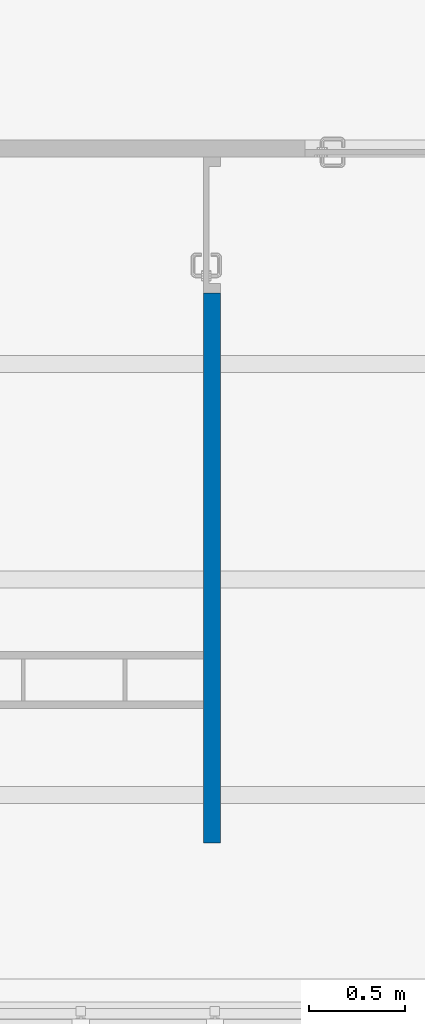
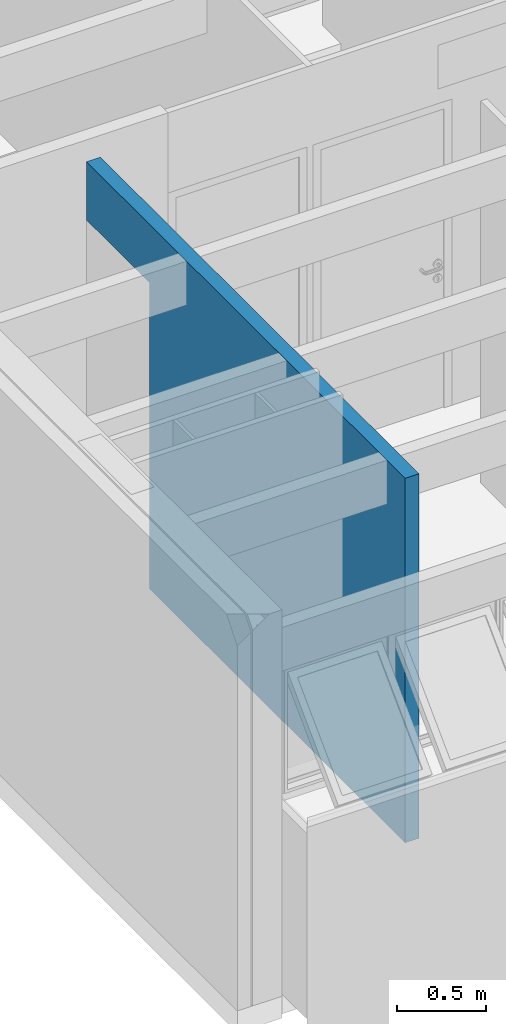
# One storey, part 18 of 38: 1 wall, 1 opening.
"""IFC2X3 building model written with IfcOpenShell, lengths in millimetres."""

from ifc_helpers import new_model, entity, si_unit, converted_unit, derived_unit, money_unit, direction, frame, origin_with_axes, origin_2d_with_axis, place, context, subcontext, project, spatial, polyline, rectangle, outline, extrude, material, layer, layer_set, layer_usage, type_object, element, save


model = new_model("IFC2X3")

# Units and contexts
model_context = context("Model", 3, precision=0.01, world=origin_with_axes(), true_north=direction((0.0, 1.0)))
body_context = subcontext(model_context, "Body", "Model", "MODEL_VIEW")
ifc_project = project(units=[si_unit("LENGTHUNIT", "METRE", prefix="MILLI"), si_unit("AREAUNIT", "SQUARE_METRE"), si_unit("VOLUMEUNIT", "CUBIC_METRE"), converted_unit("PLANEANGLEUNIT", "DEGREE", entity("IfcPlaneAngleMeasure", 0.0174532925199), si_unit("PLANEANGLEUNIT", "RADIAN"), dimensions=[0, 0, 0, 0, 0, 0, 0]), money_unit("USD"), converted_unit("TIMEUNIT", "Year", entity("IfcTimeMeasure", 31556926.0), si_unit("TIMEUNIT", "SECOND"), dimensions=[0, 0, 1, 0, 0, 0, 0]), si_unit("MASSUNIT", "GRAM", prefix="KILO"), si_unit("THERMODYNAMICTEMPERATUREUNIT", "DEGREE_CELSIUS"), si_unit("LUMINOUSINTENSITYUNIT", "LUMEN"), si_unit("ENERGYUNIT", "JOULE", prefix="MEGA"), derived_unit("THERMALCONDUCTANCEUNIT", [(si_unit("POWERUNIT", "WATT"), 1), (si_unit("LENGTHUNIT", "METRE"), -1), (si_unit("THERMODYNAMICTEMPERATUREUNIT", "KELVIN"), -1)]), derived_unit("SPECIFICHEATCAPACITYUNIT", [(si_unit("ENERGYUNIT", "JOULE"), 1), (si_unit("MASSUNIT", "GRAM", prefix="KILO"), -1), (si_unit("THERMODYNAMICTEMPERATUREUNIT", "KELVIN"), -1)]), derived_unit("MASSDENSITYUNIT", [(si_unit("MASSUNIT", "GRAM", prefix="KILO"), 1), (si_unit("VOLUMEUNIT", "CUBIC_METRE"), -1)])], contexts=[model_context])

# Site, building, storey
site_placement = place(None, origin_with_axes())
site = spatial("IfcSite", under=ifc_project, at=site_placement, Name="Local", CompositionType="ELEMENT")
building_placement = place(site_placement, origin_with_axes())
building = spatial("IfcBuilding", under=site, at=building_placement, Name="Construção", CompositionType="ELEMENT")
storey_placement = place(building_placement, frame((0.0, 0.0, 2650.0), z_axis=(0.0, 0.0, 1.0), x_axis=(1.0, 0.0, 0.0)))
storey = spatial("IfcBuildingStorey", under=building, at=storey_placement, Name="Segundo Pavimento", CompositionType="ELEMENT", Elevation=2650.0)

# Wall, opening
ifc_material = material(Name="GENÉRICO - VEDAÇÃO EXTERNA")
ifc_layer = layer(ifc_material, 90.0, ventilated="UNKNOWN")
ifc_layer_set = layer_set([ifc_layer], Name="GENÉRICO - VEDAÇÃO EXTERNA 90")
ifc_layer_usage = layer_usage(ifc_layer_set, "AXIS2", "POSITIVE", 0.0)
wall_type = type_object("IfcWallType", Name="GENÉRICO - VEDAÇÃO EXTERNA 90", PredefinedType="NOTDEFINED")
wall_placement = place(storey_placement, frame((1730.0, 18814.7804333, 0.0), z_axis=(0.0, 0.0, 1.0), x_axis=(0.0, 1.0, 0.0)))
wall = element("IfcWallStandardCase", 1, at=wall_placement, inside=storey, type_object=wall_type, material=ifc_layer_usage, Name="APTO7-PAREDE-012", context=body_context, shape_type="SweptSolid", body=[
    extrude(outline(polyline([(0.0, 0.0), (3580.0, 0.0), (3580.0, 90.0), (0.0, 90.0), (0.0, 0.0)])), origin_with_axes(), (0.0, 0.0, 1.0), 2500.0),
])
opening_placement = place(wall_placement, frame((3225.0, 0.0, 0.0), z_axis=(0.0, 0.0, 1.0), x_axis=(1.0, 0.0, 0.0)))
element("IfcOpeningElement", 2, at=opening_placement, cuts=wall, Name="APTO7-PORTA-003", context=body_context, shape_type="SweptSolid", body=[
    extrude(rectangle(XDim=710.0, YDim=2100.0, at=origin_2d_with_axis()), frame((0.0, 90.0, 1050.0), z_axis=(0.0, -1.0, 0.0), x_axis=(1.0, 0.0, 0.0)), (0.0, 0.0, 1.0), 270.0),
])

save(model, "model.ifc")
